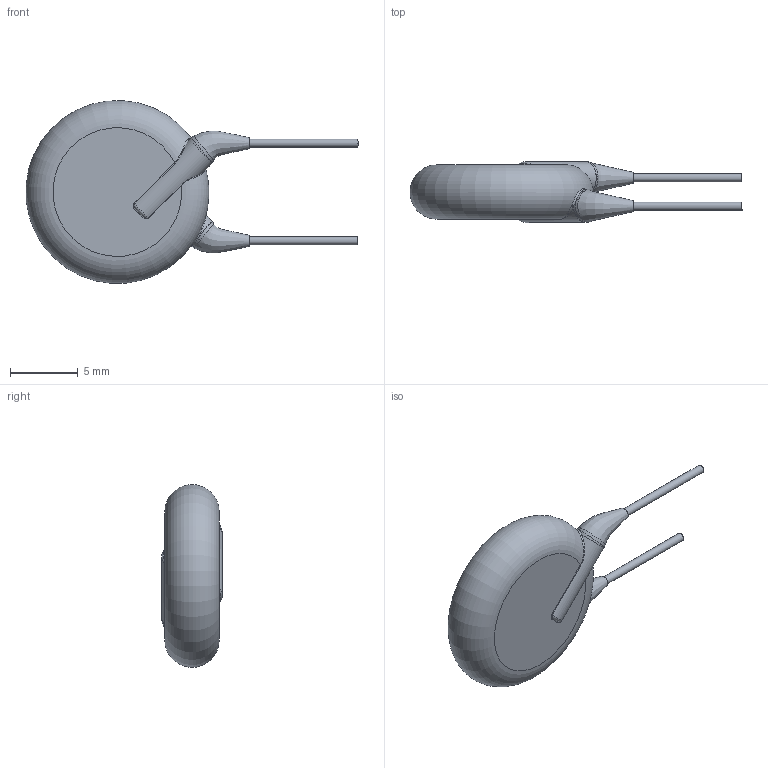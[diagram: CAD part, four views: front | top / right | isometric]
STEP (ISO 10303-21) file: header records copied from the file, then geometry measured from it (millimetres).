
FILE_DESCRIPTION(/* description */ (''),/* implementation_level */ '2;1');
FILE_NAME(/* name */ 'I:\Marketing\M6t1\3D-Models\Zchng-Werk-3\Upload for homepage\Roederstein\VKO\Y5U_300-440\VKO472MCQCD0KR\VKO472MCQCD0KR.stp',/* time_stamp */ '2018-03-19T14:37:12+01:00',/* author */ ('sheinrich'),/* organization */ (''),/* preprocessor_version */ 'ST-DEVELOPER v16.1',/* originating_system */ 'Autodesk Inventor 2016',/* authorisation */ '');
FILE_SCHEMA (('AUTOMOTIVE_DESIGN { 1 0 10303 214 3 1 1 }'));
Length unit declared in the file: centimetre
Products named in the file (1): VKO472MCQCD0KR
Bounding box: 24.49 x 4.5 x 13.47 mm (x, y, z)
Volume: 534.6 mm3; surface area: 451.3 mm2
Topology: 1 solids, 1 shells, 37 faces, 83 edges, 49 vertices
Faces by surface type: bspline 16, cylinder 8, torus 7, plane 6
Full cylindrical faces by diameter (mm): 0.6 x2
Entity records: 2137 total; most frequent: CARTESIAN_POINT 1368, ORIENTED_EDGE 156, DIRECTION 112, EDGE_CURVE 78, AXIS2_PLACEMENT_3D 52, VERTEX_POINT 48, EDGE_LOOP 42, B_SPLINE_CURVE_WITH_KNOTS 40
